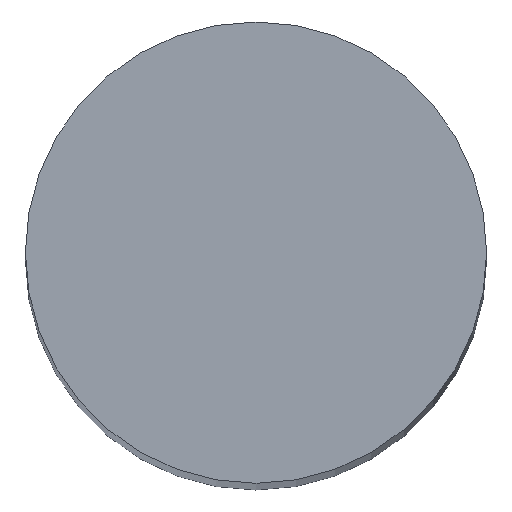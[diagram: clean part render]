
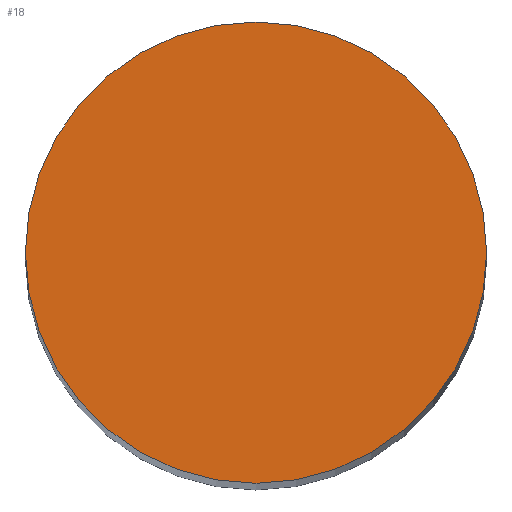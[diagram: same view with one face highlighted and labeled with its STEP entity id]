
A CAD part, top view. The second image highlights one B-rep face of the part: STEP entity #18.
In plain terms, the highlighted planar face has unit normal (0, 0, 1).
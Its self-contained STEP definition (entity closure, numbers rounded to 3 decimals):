
#10 = EDGE_CURVE ( 'NONE', #27, #26, #17, .T. ) ;
#13 = CARTESIAN_POINT ( 'NONE',  ( 0., 0., 500. ) ) ;
#14 = AXIS2_PLACEMENT_3D ( 'NONE', #13, #39, #36 ) ;
#17 = CIRCLE ( 'NONE', #14, 30. ) ;
#18 = ADVANCED_FACE ( 'NONE', ( #152 ), #89, .T. ) ;
#20 = EDGE_LOOP ( 'NONE', ( #24, #23 ) ) ;
#23 = ORIENTED_EDGE ( 'NONE', *, *, #31, .T. ) ;
#24 = ORIENTED_EDGE ( 'NONE', *, *, #10, .T. ) ;
#26 = VERTEX_POINT ( 'NONE', #137 ) ;
#27 = VERTEX_POINT ( 'NONE', #136 ) ;
#31 = EDGE_CURVE ( 'NONE', #26, #27, #131, .T. ) ;
#36 = DIRECTION ( 'NONE',  ( 1., 0., 0. ) ) ;
#39 = DIRECTION ( 'NONE',  ( 0., 0., 1. ) ) ;
#89 = PLANE ( 'NONE',  #153 ) ;
#90 = DIRECTION ( 'NONE',  ( 0., 0., 1. ) ) ;
#102 = DIRECTION ( 'NONE',  ( 1., 0., 0. ) ) ;
#103 = DIRECTION ( 'NONE',  ( 1., 0., 0. ) ) ;
#128 = DIRECTION ( 'NONE',  ( 0., 0., 1. ) ) ;
#129 = CARTESIAN_POINT ( 'NONE',  ( 0., 0., 500. ) ) ;
#130 = AXIS2_PLACEMENT_3D ( 'NONE', #129, #128, #102 ) ;
#131 = CIRCLE ( 'NONE', #130, 30. ) ;
#136 = CARTESIAN_POINT ( 'NONE',  ( -30., 0., 500. ) ) ;
#137 = CARTESIAN_POINT ( 'NONE',  ( 30., 0., 500. ) ) ;
#144 = CARTESIAN_POINT ( 'NONE',  ( 0., 0., 500. ) ) ;
#152 = FACE_OUTER_BOUND ( 'NONE', #20, .T. ) ;
#153 = AXIS2_PLACEMENT_3D ( 'NONE', #144, #90, #103 ) ;
